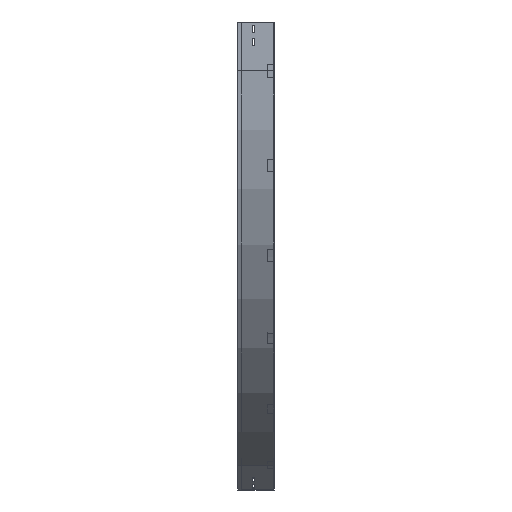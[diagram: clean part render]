
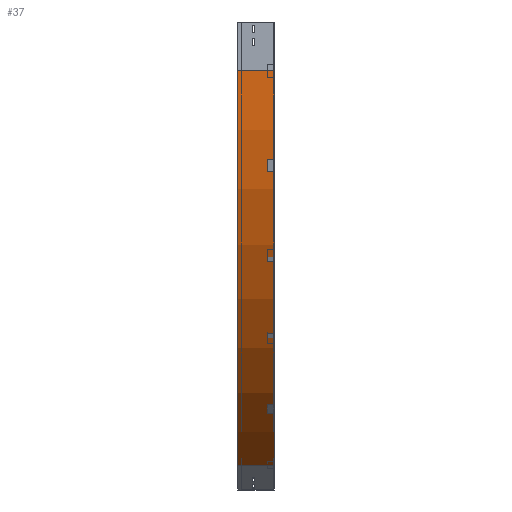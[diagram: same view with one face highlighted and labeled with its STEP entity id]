
A CAD part, left-side view. The second image highlights one B-rep face of the part: STEP entity #37.
In plain terms, the highlighted cylindrical face has radius 1400 mm (diameter 2800 mm), a partial arc.
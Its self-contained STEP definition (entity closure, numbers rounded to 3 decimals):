
#37 = ADVANCED_FACE ( 'NONE', ( #2568 ), #1085, .T. ) ;
#41 = VERTEX_POINT ( 'NONE', #1334 ) ;
#73 = AXIS2_PLACEMENT_3D ( 'NONE', #3704, #1605, #2560 ) ;
#243 = VERTEX_POINT ( 'NONE', #688 ) ;
#324 = EDGE_CURVE ( 'NONE', #41, #570, #1571, .T. ) ;
#367 = ORIENTED_EDGE ( 'NONE', *, *, #324, .F. ) ;
#523 = DIRECTION ( 'NONE',  ( 0., -1., 0. ) ) ;
#525 = CIRCLE ( 'NONE', #2954, 1400. ) ;
#570 = VERTEX_POINT ( 'NONE', #2949 ) ;
#635 = LINE ( 'NONE', #1319, #2645 ) ;
#639 = CARTESIAN_POINT ( 'NONE',  ( 0., 112.5, -150. ) ) ;
#688 = CARTESIAN_POINT ( 'NONE',  ( 700., 112.5, -1362.436 ) ) ;
#937 = ORIENTED_EDGE ( 'NONE', *, *, #2689, .T. ) ;
#965 = AXIS2_PLACEMENT_3D ( 'NONE', #2287, #3465, #1389 ) ;
#1085 = CYLINDRICAL_SURFACE ( 'NONE', #965, 1400. ) ;
#1174 = ORIENTED_EDGE ( 'NONE', *, *, #2387, .F. ) ;
#1295 = DIRECTION ( 'NONE',  ( -1., 0., 0. ) ) ;
#1319 = CARTESIAN_POINT ( 'NONE',  ( 700., 0., -1362.436 ) ) ;
#1334 = CARTESIAN_POINT ( 'NONE',  ( 0., 0., -150. ) ) ;
#1389 = DIRECTION ( 'NONE',  ( 0., 0., -1. ) ) ;
#1571 = CIRCLE ( 'NONE', #73, 1400. ) ;
#1605 = DIRECTION ( 'NONE',  ( 0., -1., 0. ) ) ;
#1832 = DIRECTION ( 'NONE',  ( 0., -1., 0. ) ) ;
#2089 = VERTEX_POINT ( 'NONE', #639 ) ;
#2287 = CARTESIAN_POINT ( 'NONE',  ( 1400., 0., -150. ) ) ;
#2387 = EDGE_CURVE ( 'NONE', #2089, #41, #2846, .T. ) ;
#2440 = DIRECTION ( 'NONE',  ( 0., -1., 0. ) ) ;
#2469 = VECTOR ( 'NONE', #523, 1000. ) ;
#2522 = ORIENTED_EDGE ( 'NONE', *, *, #2668, .T. ) ;
#2538 = EDGE_LOOP ( 'NONE', ( #367, #1174, #937, #2522 ) ) ;
#2560 = DIRECTION ( 'NONE',  ( -1., 0., 0. ) ) ;
#2568 = FACE_OUTER_BOUND ( 'NONE', #2538, .T. ) ;
#2612 = CARTESIAN_POINT ( 'NONE',  ( 0., 0., -150. ) ) ;
#2645 = VECTOR ( 'NONE', #2440, 1000. ) ;
#2668 = EDGE_CURVE ( 'NONE', #243, #570, #635, .T. ) ;
#2689 = EDGE_CURVE ( 'NONE', #2089, #243, #525, .T. ) ;
#2846 = LINE ( 'NONE', #2612, #2469 ) ;
#2949 = CARTESIAN_POINT ( 'NONE',  ( 700., 0., -1362.436 ) ) ;
#2954 = AXIS2_PLACEMENT_3D ( 'NONE', #3651, #1832, #1295 ) ;
#3465 = DIRECTION ( 'NONE',  ( 0., -1., 0. ) ) ;
#3651 = CARTESIAN_POINT ( 'NONE',  ( 1400., 112.5, -150. ) ) ;
#3704 = CARTESIAN_POINT ( 'NONE',  ( 1400., 0., -150. ) ) ;
